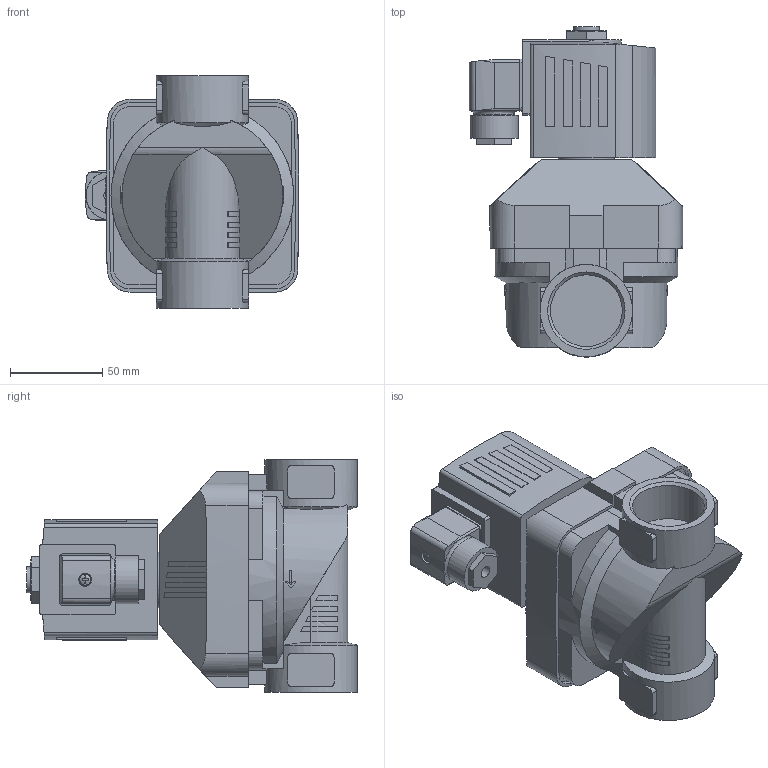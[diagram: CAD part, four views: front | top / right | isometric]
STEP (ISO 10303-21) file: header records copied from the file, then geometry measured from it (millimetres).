
FILE_DESCRIPTION( ( 'STEP AP214' ), '1' );
FILE_NAME( 'p:/temp/worker_22/temp/app_47_02018110108332892047780192d056f_000000_00_00_000000/format_0/6213-270904-2_2-Way-Solenoid-Valve_for_fluids.stp', '2018-11-01T07:33:30', ( '' ), ( '' ), ' ', 'PARTsolutions', ' ' );
FILE_SCHEMA( ( 'AUTOMOTIVE_DESIGN { 1 0 10303 214 1 1 1 1 }' ) );
Length unit declared in the file: millimetre
Products named in the file (4): 6213-270904-2/2-Way-Solenoid-Valve for fluids; HI_AC10ex-65SG=lGSD_MB02Plan-Coil; _6213-40U5-2/2-Wege-Magnetventil-feur-Fluessigkeiten-und-Gase; HI_6213-40G1_1/4MS-Gehaeuse-
Assembly tree (3 placements, depth 2):
  6213-270904-2/2-Way-Solenoid-Valve for fluids
    HI_AC10ex-65SG=lGSD_MB02Plan-Coil
    _6213-40U5-2/2-Wege-Magnetventil-feur-Fluessigkeiten-und-Gase
    HI_6213-40G1_1/4MS-Gehaeuse-
Bounding box: 115.75 x 178.85 x 126 mm (x, y, z)
Volume: 1039778.3 mm3; surface area: 112148.1 mm2
Topology: 3 solids, 4 shells, 406 faces, 1081 edges, 712 vertices
Faces by surface type: plane 287, cylinder 101, cone 15, sphere 2, torus 1
Full cylindrical faces by diameter (mm): 2.013 x1, 6 x1, 6.7 x1, 7 x1, 14 x1, 22 x1, 26 x1, 30.3 x1, 38.952 x2, 50 x2
Entity records: 16297 total; most frequent: CARTESIAN_POINT 2849, ORIENTED_EDGE 2114, DIRECTION 2091, EDGE_CURVE 1057, VERTEX_POINT 705, AXIS2_PLACEMENT_3D 703, LINE 685, VECTOR 685
